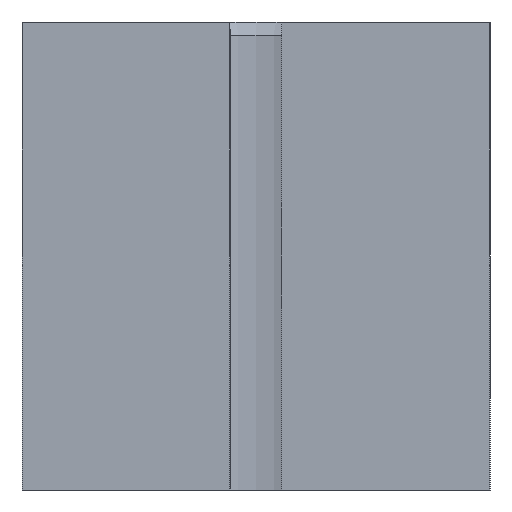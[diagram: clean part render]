
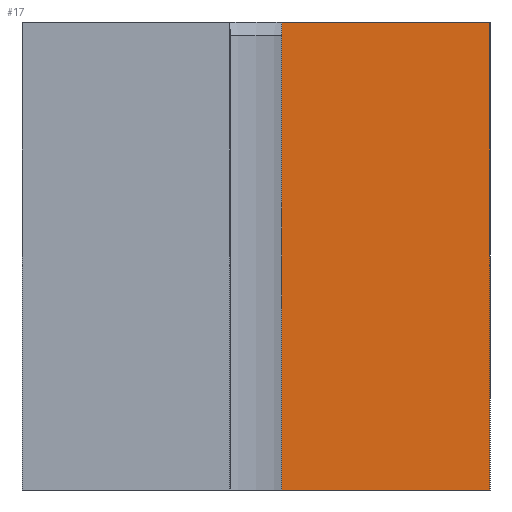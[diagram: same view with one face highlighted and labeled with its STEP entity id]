
A CAD part, left-side view. The second image highlights one B-rep face of the part: STEP entity #17.
In plain terms, the highlighted planar face has unit normal (-1, 0, 0).
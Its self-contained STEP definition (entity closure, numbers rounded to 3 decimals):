
#17 = ADVANCED_FACE('',(#18),#32,.F.);
#18 = FACE_BOUND('',#19,.T.);
#19 = EDGE_LOOP('',(#20,#55,#83,#111));
#20 = ORIENTED_EDGE('',*,*,#21,.F.);
#21 = EDGE_CURVE('',#22,#24,#26,.T.);
#22 = VERTEX_POINT('',#23);
#23 = CARTESIAN_POINT('',(-22.5,-1.,-9.));
#24 = VERTEX_POINT('',#25);
#25 = CARTESIAN_POINT('',(-22.5,-1.,9.));
#26 = SURFACE_CURVE('',#27,(#31,#43),.PCURVE_S1.);
#27 = LINE('',#28,#29);
#28 = CARTESIAN_POINT('',(-22.5,-1.,9.));
#29 = VECTOR('',#30,1.);
#30 = DIRECTION('',(0.,0.,1.));
#31 = PCURVE('',#32,#37);
#32 = PLANE('',#33);
#33 = AXIS2_PLACEMENT_3D('',#34,#35,#36);
#34 = CARTESIAN_POINT('',(-22.5,-9.,9.));
#35 = DIRECTION('',(1.,0.,0.));
#36 = DIRECTION('',(0.,0.,-1.));
#37 = DEFINITIONAL_REPRESENTATION('',(#38),#42);
#38 = LINE('',#39,#40);
#39 = CARTESIAN_POINT('',(0.,8.));
#40 = VECTOR('',#41,1.);
#41 = DIRECTION('',(-1.,0.));
#42 = ( GEOMETRIC_REPRESENTATION_CONTEXT(2) 
PARAMETRIC_REPRESENTATION_CONTEXT() REPRESENTATION_CONTEXT('2D SPACE',''
  ) );
#43 = PCURVE('',#44,#49);
#44 = PLANE('',#45);
#45 = AXIS2_PLACEMENT_3D('',#46,#47,#48);
#46 = CARTESIAN_POINT('',(-7.5,-1.,-43.574));
#47 = DIRECTION('',(0.,1.,0.));
#48 = DIRECTION('',(0.,-0.,1.));
#49 = DEFINITIONAL_REPRESENTATION('',(#50),#54);
#50 = LINE('',#51,#52);
#51 = CARTESIAN_POINT('',(52.574,-15.));
#52 = VECTOR('',#53,1.);
#53 = DIRECTION('',(1.,0.));
#54 = ( GEOMETRIC_REPRESENTATION_CONTEXT(2) 
PARAMETRIC_REPRESENTATION_CONTEXT() REPRESENTATION_CONTEXT('2D SPACE',''
  ) );
#55 = ORIENTED_EDGE('',*,*,#56,.F.);
#56 = EDGE_CURVE('',#57,#22,#59,.T.);
#57 = VERTEX_POINT('',#58);
#58 = CARTESIAN_POINT('',(-22.5,-9.,-9.));
#59 = SURFACE_CURVE('',#60,(#64,#71),.PCURVE_S1.);
#60 = LINE('',#61,#62);
#61 = CARTESIAN_POINT('',(-22.5,-9.,-9.));
#62 = VECTOR('',#63,1.);
#63 = DIRECTION('',(0.,1.,0.));
#64 = PCURVE('',#32,#65);
#65 = DEFINITIONAL_REPRESENTATION('',(#66),#70);
#66 = LINE('',#67,#68);
#67 = CARTESIAN_POINT('',(18.,0.));
#68 = VECTOR('',#69,1.);
#69 = DIRECTION('',(0.,1.));
#70 = ( GEOMETRIC_REPRESENTATION_CONTEXT(2) 
PARAMETRIC_REPRESENTATION_CONTEXT() REPRESENTATION_CONTEXT('2D SPACE',''
  ) );
#71 = PCURVE('',#72,#77);
#72 = PLANE('',#73);
#73 = AXIS2_PLACEMENT_3D('',#74,#75,#76);
#74 = CARTESIAN_POINT('',(-22.5,-9.,-9.));
#75 = DIRECTION('',(0.,0.,1.));
#76 = DIRECTION('',(1.,0.,0.));
#77 = DEFINITIONAL_REPRESENTATION('',(#78),#82);
#78 = LINE('',#79,#80);
#79 = CARTESIAN_POINT('',(0.,0.));
#80 = VECTOR('',#81,1.);
#81 = DIRECTION('',(0.,1.));
#82 = ( GEOMETRIC_REPRESENTATION_CONTEXT(2) 
PARAMETRIC_REPRESENTATION_CONTEXT() REPRESENTATION_CONTEXT('2D SPACE',''
  ) );
#83 = ORIENTED_EDGE('',*,*,#84,.F.);
#84 = EDGE_CURVE('',#85,#57,#87,.T.);
#85 = VERTEX_POINT('',#86);
#86 = CARTESIAN_POINT('',(-22.5,-9.,9.));
#87 = SURFACE_CURVE('',#88,(#92,#99),.PCURVE_S1.);
#88 = LINE('',#89,#90);
#89 = CARTESIAN_POINT('',(-22.5,-9.,9.));
#90 = VECTOR('',#91,1.);
#91 = DIRECTION('',(0.,0.,-1.));
#92 = PCURVE('',#32,#93);
#93 = DEFINITIONAL_REPRESENTATION('',(#94),#98);
#94 = LINE('',#95,#96);
#95 = CARTESIAN_POINT('',(0.,0.));
#96 = VECTOR('',#97,1.);
#97 = DIRECTION('',(1.,0.));
#98 = ( GEOMETRIC_REPRESENTATION_CONTEXT(2) 
PARAMETRIC_REPRESENTATION_CONTEXT() REPRESENTATION_CONTEXT('2D SPACE',''
  ) );
#99 = PCURVE('',#100,#105);
#100 = PLANE('',#101);
#101 = AXIS2_PLACEMENT_3D('',#102,#103,#104);
#102 = CARTESIAN_POINT('',(0.,-9.,0.));
#103 = DIRECTION('',(0.,-1.,0.));
#104 = DIRECTION('',(0.,0.,-1.));
#105 = DEFINITIONAL_REPRESENTATION('',(#106),#110);
#106 = LINE('',#107,#108);
#107 = CARTESIAN_POINT('',(-9.,-22.5));
#108 = VECTOR('',#109,1.);
#109 = DIRECTION('',(1.,0.));
#110 = ( GEOMETRIC_REPRESENTATION_CONTEXT(2) 
PARAMETRIC_REPRESENTATION_CONTEXT() REPRESENTATION_CONTEXT('2D SPACE',''
  ) );
#111 = ORIENTED_EDGE('',*,*,#112,.T.);
#112 = EDGE_CURVE('',#85,#24,#113,.T.);
#113 = SURFACE_CURVE('',#114,(#118,#125),.PCURVE_S1.);
#114 = LINE('',#115,#116);
#115 = CARTESIAN_POINT('',(-22.5,-9.,9.));
#116 = VECTOR('',#117,1.);
#117 = DIRECTION('',(0.,1.,0.));
#118 = PCURVE('',#32,#119);
#119 = DEFINITIONAL_REPRESENTATION('',(#120),#124);
#120 = LINE('',#121,#122);
#121 = CARTESIAN_POINT('',(0.,0.));
#122 = VECTOR('',#123,1.);
#123 = DIRECTION('',(0.,1.));
#124 = ( GEOMETRIC_REPRESENTATION_CONTEXT(2) 
PARAMETRIC_REPRESENTATION_CONTEXT() REPRESENTATION_CONTEXT('2D SPACE',''
  ) );
#125 = PCURVE('',#126,#131);
#126 = PLANE('',#127);
#127 = AXIS2_PLACEMENT_3D('',#128,#129,#130);
#128 = CARTESIAN_POINT('',(22.5,-9.,9.));
#129 = DIRECTION('',(0.,0.,-1.));
#130 = DIRECTION('',(-1.,0.,0.));
#131 = DEFINITIONAL_REPRESENTATION('',(#132),#136);
#132 = LINE('',#133,#134);
#133 = CARTESIAN_POINT('',(45.,0.));
#134 = VECTOR('',#135,1.);
#135 = DIRECTION('',(0.,1.));
#136 = ( GEOMETRIC_REPRESENTATION_CONTEXT(2) 
PARAMETRIC_REPRESENTATION_CONTEXT() REPRESENTATION_CONTEXT('2D SPACE',''
  ) );
